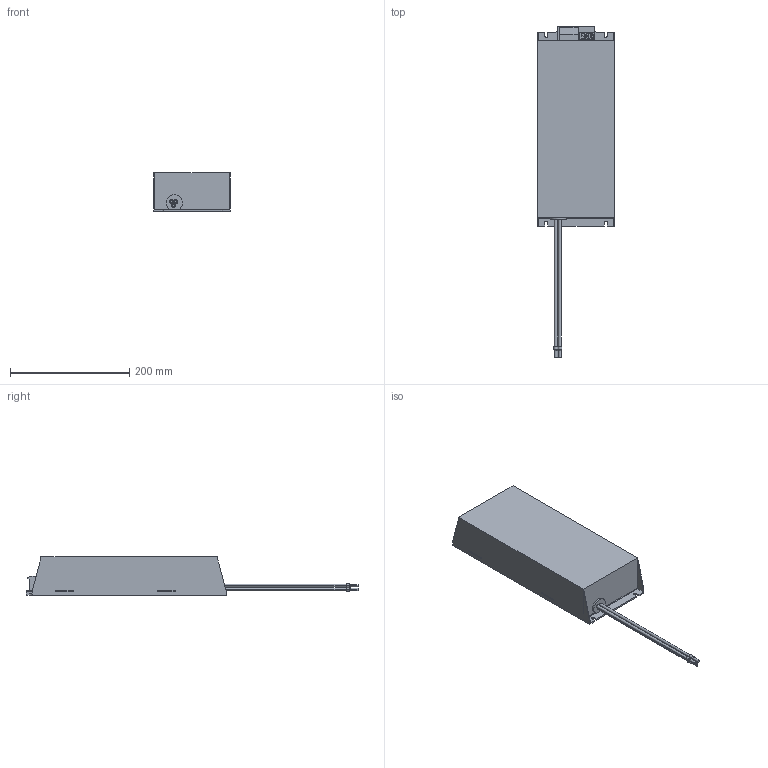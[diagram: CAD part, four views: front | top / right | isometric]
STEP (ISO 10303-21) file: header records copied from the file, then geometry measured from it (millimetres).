
FILE_DESCRIPTION (( 'STEP AP214' ), '1' );
FILE_NAME ('00E6X00-0014.STEP', '2023-07-11T09:17:29', ( '' ), ( '' ), 'SwSTEP 2.0', 'SolidWorks 2022', '' );
FILE_SCHEMA (( 'AUTOMOTIVE_DESIGN' ));
Length unit declared in the file: millimetre
Products named in the file (1): 00E6X00-0014
Bounding box: 130 x 556.9 x 65 mm (x, y, z)
Volume: 2532976.3 mm3; surface area: 157254.9 mm2
Topology: 1 solids, 1 shells, 197 faces, 508 edges, 332 vertices
Faces by surface type: plane 120, cylinder 58, bspline 13, cone 6
Entity records: 6899 total; most frequent: CARTESIAN_POINT 1957, ORIENTED_EDGE 1016, DIRECTION 890, EDGE_CURVE 508, VERTEX_POINT 332, LINE 312, VECTOR 312, AXIS2_PLACEMENT_3D 289
